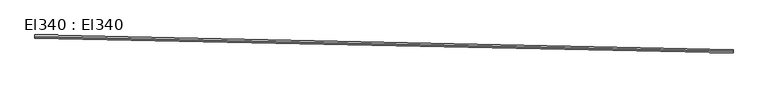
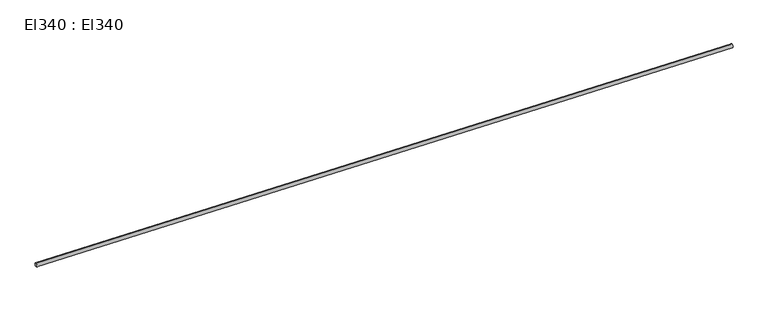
"""IFC4 building model written with IfcOpenShell, lengths in millimetres: cable carrier segment geometry, El340 : El340."""

from ifc_helpers import new_model, si_unit, point, frame, frame_2d, origin, place, context, project, spatial, circle_curve, trimmed, segment, composite_curve, outline, extrude, source, transform, mapped, element, save


def el340_el340_78547402(model_context):
    return source(origin(), model_context, "Body", "SweptSolid", [
        extrude(outline(composite_curve([segment(trimmed(circle_curve(frame_2d((0.0, -9.5)), 9.5), [point((0.0, -19.0))], [point((0.0, 0.0))], False, "CARTESIAN"), True, "CONTINUOUS"), segment(trimmed(circle_curve(frame_2d((0.0, -9.5)), 9.5), [point((0.0, 0.0))], [point((0.0, -19.0))], False, "CARTESIAN"), True, "CONTINUOUS")], self_intersect=False)), frame((19238.52, 7871.2287, 9.5), z_axis=(-0.9997815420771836, 0.020901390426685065, 0.0), x_axis=(-0.020901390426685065, -0.9997815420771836, 0.0)), (0.0, 0.0, 1.0), 3799.87),
    ])


if __name__ == "__main__":
    model = new_model("IFC4")
    model_context = context("Model", 3, world=origin())
    ifc_project = project(units=[si_unit("LENGTHUNIT", "METRE", prefix="MILLI")], contexts=[model_context])
    site = spatial("IfcSite", under=ifc_project)
    building = spatial("IfcBuilding", under=site)
    placement = place(None, origin())
    el340_el340_shape = el340_el340_78547402(model_context)
    element("IfcCableCarrierSegment", 1, ObjectType="El340 : El340", at=placement, inside=building, context=model_context, shape_type="MappedRepresentation", body=[
        mapped(el340_el340_shape, transform((0.0, 0.0, 0.0), x_axis=(1.0, 0.0, 0.0), y_axis=(0.0, 1.0, 0.0), z_axis=(0.0, 0.0, 1.0))),
    ])
    save(model, "model.ifc")
